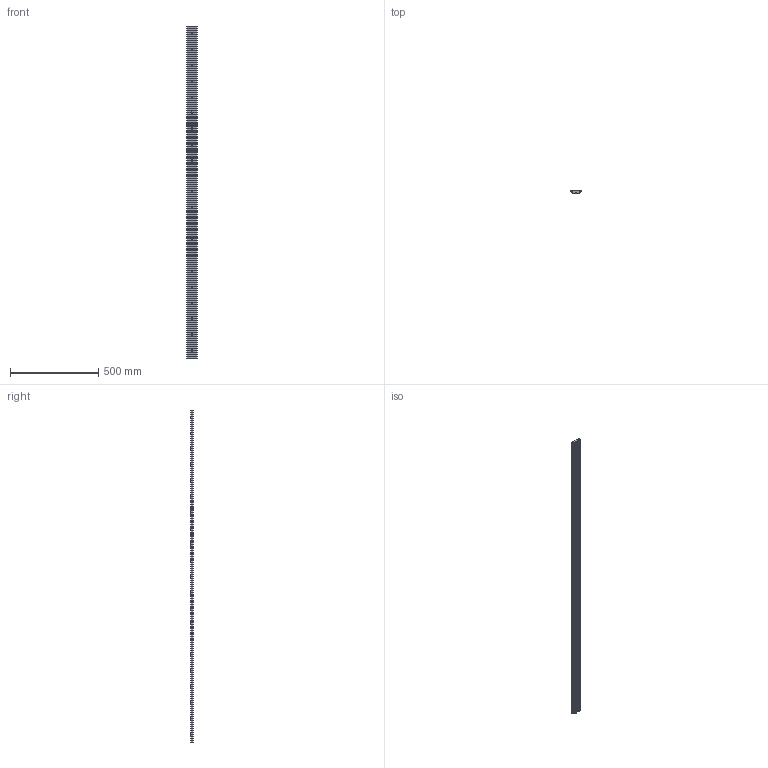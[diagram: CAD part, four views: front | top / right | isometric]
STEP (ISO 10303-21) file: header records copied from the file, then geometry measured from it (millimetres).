
FILE_DESCRIPTION(('STEP AP203'),'1');
FILE_NAME('slide_nm60l1886p3.stp','2022-07-01T04:41:31',('TraceParts'),('TraceParts S.A.'),'Spatial InterOp 3D',' ',' ');
FILE_SCHEMA(('CONFIG_CONTROL_DESIGN'));
Length unit declared in the file: millimetre
Products named in the file (1): 1
Bounding box: 60.45 x 15.91 x 1886 mm (x, y, z)
Volume: 1244897.5 mm3; surface area: 304213.7 mm2
Topology: 1 solids, 1 shells, 145 faces, 366 edges, 244 vertices
Faces by surface type: cylinder 98, plane 47
Entity records: 4584 total; most frequent: DIRECTION 854, CARTESIAN_POINT 756, ORIENTED_EDGE 732, EDGE_CURVE 366, AXIS2_PLACEMENT_3D 342, VERTEX_POINT 244, EDGE_LOOP 208, CIRCLE 196
